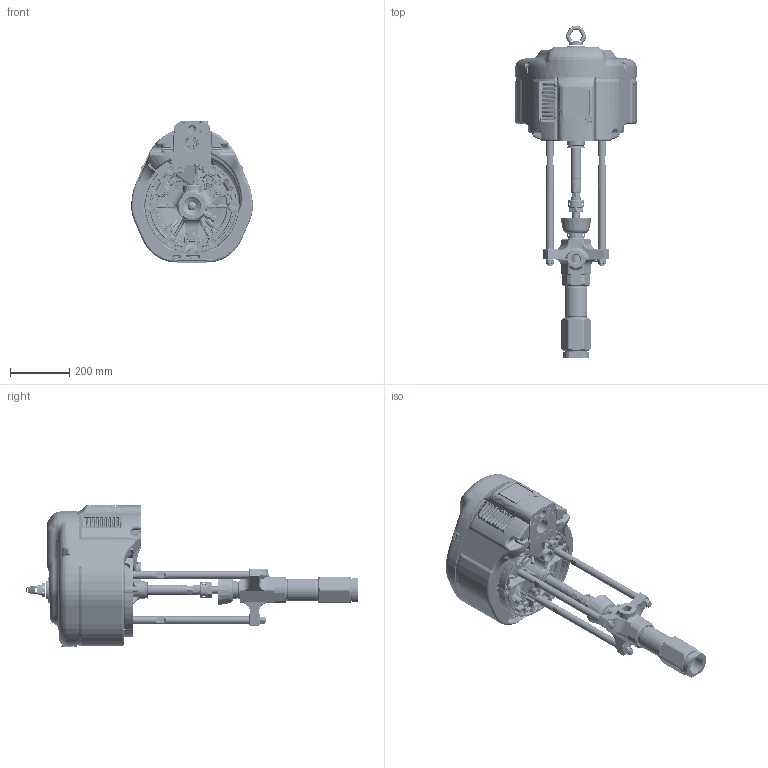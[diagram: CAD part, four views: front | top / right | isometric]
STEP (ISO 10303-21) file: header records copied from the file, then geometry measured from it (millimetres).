
FILE_DESCRIPTION((''),'2;1');
FILE_NAME('P45CSS-EN-A_PRT','2020-05-28T13:58:15',('qusrh3'),(''),'CREO PARAMETRIC BY PTC INC, 2019030','CREO PARAMETRIC BY PTC INC, 2019030','');
FILE_SCHEMA(('CONFIG_CONTROL_DESIGN'));
Products named in the file (1): P45CSS-EN-A_PRT
Bounding box: 410.21 x 1119.35 x 482.04 mm (x, y, z)
Surface area: 3603530.9 mm2 (no closed solid volume)
Topology: 0 solids, 450 shells, 6250 faces, 26893 edges, 20127 vertices
Faces by surface type: plane 1881, cylinder 1534, bspline 1238, cone 793, torus 720, sphere 63, extrusion 21
Entity records: 366676 total; most frequent: CARTESIAN_POINT 177635, ORIENTED_EDGE 37366, DIRECTION 32571, EDGE_CURVE 26870, VERTEX_POINT 20127, AXIS2_PLACEMENT_3D 12410, B_SPLINE_CURVE_WITH_KNOTS 11742, VECTOR 7751
